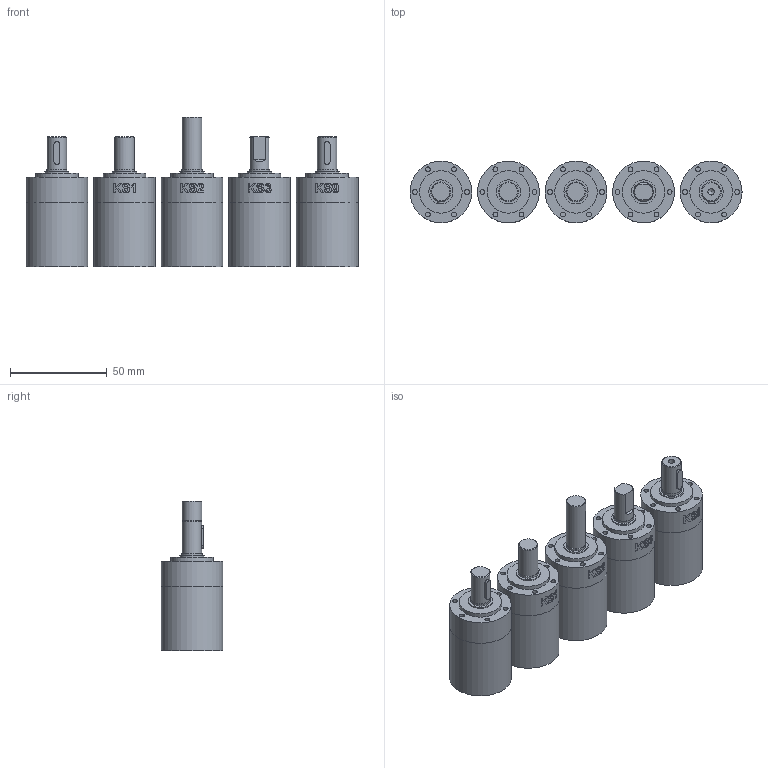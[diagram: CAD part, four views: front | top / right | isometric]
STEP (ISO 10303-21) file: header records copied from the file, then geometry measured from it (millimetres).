
FILE_DESCRIPTION(/* description */ (''),/* implementation_level */ '2;1');
FILE_NAME(/* name */ '32gpt_HT-3stage_standard+KSx.stp',/* time_stamp */ '2025-05-05T14:11:23+02:00',/* author */ ('DR. FRITZ FAULHABER GmbH & Co. KG'),/* organization */ ('DR. FRITZ FAULHABER GmbH & Co. KG'),/* preprocessor_version */ 'ST-DEVELOPER v19.3',/* originating_system */ 'SIEMENS PLM Software NX2212.4000',/* authorisation */ '');
FILE_SCHEMA (('AUTOMOTIVE_DESIGN { 1 0 10303 214 3 1 1 1 }'));
Length unit declared in the file: millimetre
Products named in the file (1): A_objects
Bounding box: 172 x 32 x 77.4 mm (x, y, z)
Volume: 185673.1 mm3; surface area: 39118.1 mm2
Topology: 5 solids, 5 shells, 288 faces, 566 edges, 378 vertices
Faces by surface type: plane 131, cylinder 98, bspline 52, cone 7
Full cylindrical faces by diameter (mm): 2.5 x30, 3.3 x1, 10 x5, 10.4 x5, 12.5 x5, 14.568 x5, 18 x5, 22 x5, 29.8 x5, 31.999 x5, 32 x10
Entity records: 15038 total; most frequent: CARTESIAN_POINT 9089, ORIENTED_EDGE 940, DIRECTION 925, EDGE_CURVE 470, EDGE_LOOP 465, AXIS2_PLACEMENT_3D 432, VERTEX_POINT 370, FACE_BOUND 312
